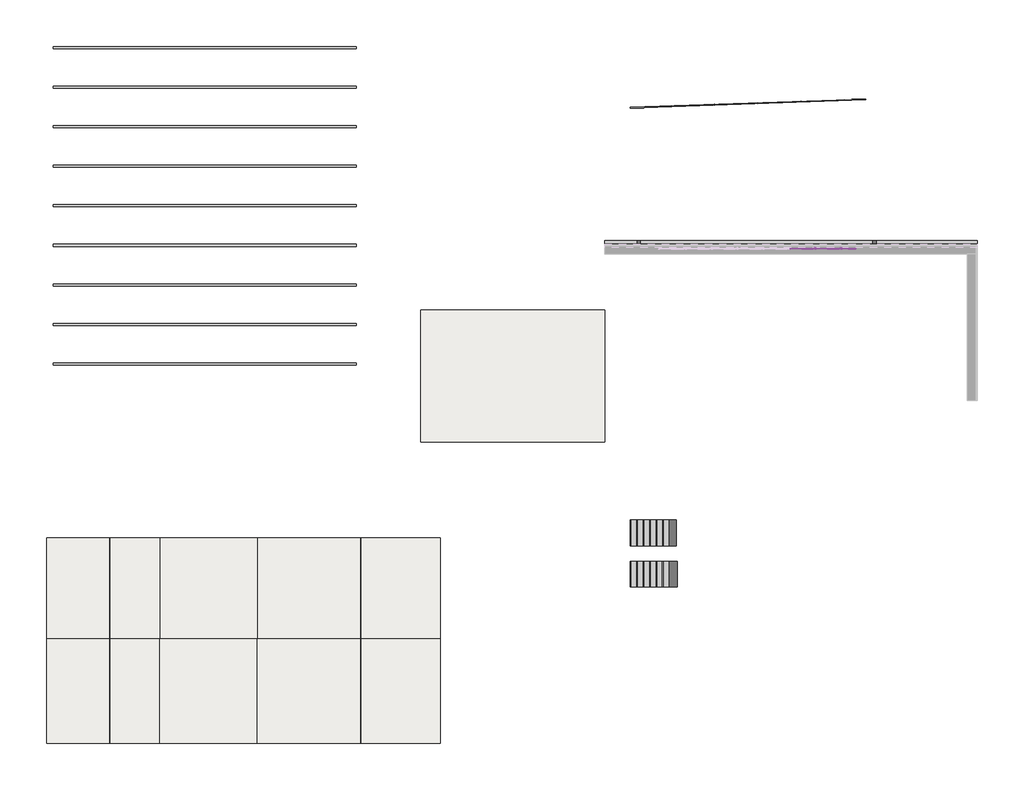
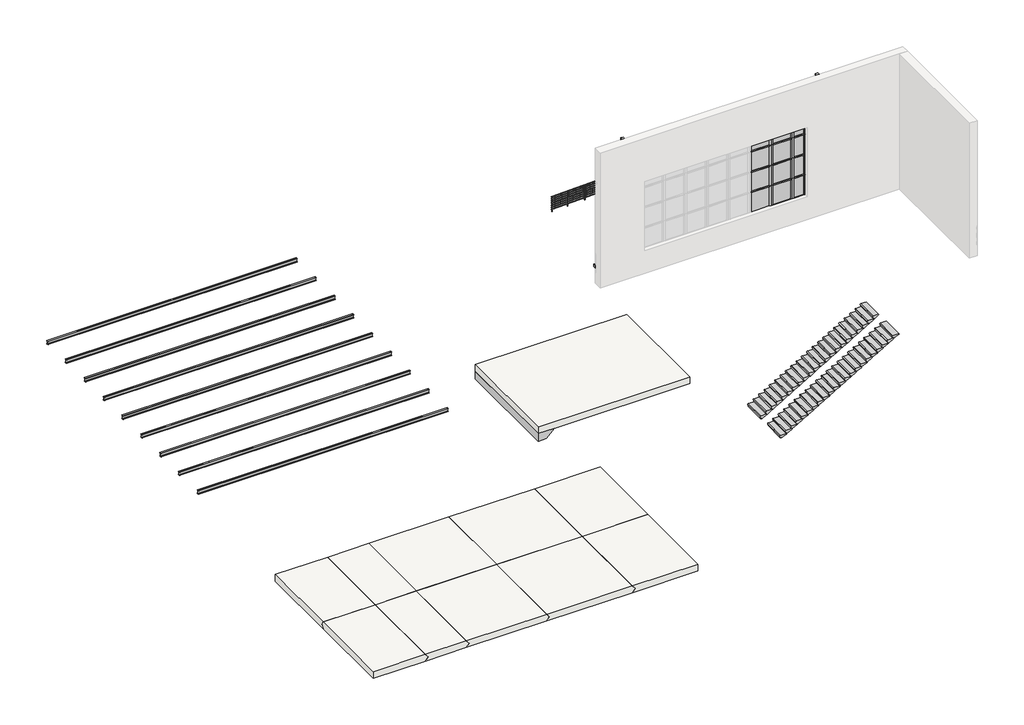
# One storey, part 2 of 2: 26 members, 12 plates, 9 beams, 4 proxies, 2 slabs, 2 stair flights, 1 railing.
"""IFC4 building model written with IfcOpenShell, lengths in millimetres."""

from ifc_helpers import new_model, si_unit, point, frame, frame_2d, origin, origin_with_axes, place, context, project, spatial, polyline, circle_curve, trimmed, segment, composite_curve, outline, extrude, faceted_brep, transform, mapped, element, save
from components import i_20b_96209b2f, member_019d2a25, member_3923b022, member_f6eef321, member_bfa8bbc5, member_4ce70233, member_5c61a606, member_90bb8290, member_481cded8, plate_97cba745, plate_2721f8ce, plate_4467079a, plate_749ee249, plate_6a8ce772, plate_be455ca1, stair_flight_9368ac00, stair_flight_5a34b58b

model = new_model("IFC4")

# Units and contexts
model_context = context("Model", 3, world=origin())
ifc_project = project(units=[si_unit("LENGTHUNIT", "METRE", prefix="MILLI")], contexts=[model_context])

# Site, building, storey
site = spatial("IfcSite", under=ifc_project)
building = spatial("IfcBuilding", under=site)
storey = spatial("IfcBuildingStorey", under=building, Name="Уровень 1", Elevation=0.0)

# Beams
placement = place(None, origin())
i_20b_shape = i_20b_96209b2f(model_context)
element("IfcBeam", 1, ObjectType="Двутавровая балка с параллельными гранями полок типа Б (ТУ 14-2-24-72) Балки : I 20B", at=placement, inside=storey, context=model_context, shape_type="MappedRepresentation", body=[
    mapped(i_20b_shape, transform((-40548.8124728, 17779.8601583, -97.0), x_axis=(1.0, 0.0, 0.0), y_axis=(0.0, 1.0, 0.0), z_axis=(0.0, 0.0, 1.0))),
])
element("IfcBeam", 2, ObjectType="Двутавровая балка с параллельными гранями полок типа Б (ТУ 14-2-24-72) Балки : I 20B", at=placement, inside=storey, context=model_context, shape_type="MappedRepresentation", body=[
    mapped(i_20b_shape, transform((-40548.8124728, 15951.0601583, -97.0), x_axis=(1.0, 0.0, 0.0), y_axis=(0.0, 1.0, 0.0), z_axis=(0.0, 0.0, 1.0))),
])
element("IfcBeam", 3, ObjectType="Двутавровая балка с параллельными гранями полок типа Б (ТУ 14-2-24-72) Балки : I 20B", at=placement, inside=storey, context=model_context, shape_type="MappedRepresentation", body=[
    mapped(i_20b_shape, transform((-40548.8124728, 14122.2601583, -97.0), x_axis=(1.0, 0.0, 0.0), y_axis=(0.0, 1.0, 0.0), z_axis=(0.0, 0.0, 1.0))),
])
element("IfcBeam", 4, ObjectType="Двутавровая балка с параллельными гранями полок типа Б (ТУ 14-2-24-72) Балки : I 20B", at=placement, inside=storey, context=model_context, shape_type="MappedRepresentation", body=[
    mapped(i_20b_shape, transform((-40548.8124728, 12293.4601583, -97.0), x_axis=(1.0, 0.0, 0.0), y_axis=(0.0, 1.0, 0.0), z_axis=(0.0, 0.0, 1.0))),
])
element("IfcBeam", 5, ObjectType="Двутавровая балка с параллельными гранями полок типа Б (ТУ 14-2-24-72) Балки : I 20B", at=placement, inside=storey, context=model_context, shape_type="MappedRepresentation", body=[
    mapped(i_20b_shape, transform((-40548.8124728, 10464.6601583, -97.0), x_axis=(1.0, 0.0, 0.0), y_axis=(0.0, 1.0, 0.0), z_axis=(0.0, 0.0, 1.0))),
])
element("IfcBeam", 6, ObjectType="Двутавровая балка с параллельными гранями полок типа Б (ТУ 14-2-24-72) Балки : I 20B", at=placement, inside=storey, context=model_context, shape_type="MappedRepresentation", body=[
    mapped(i_20b_shape, transform((-40548.8124728, 8635.8601583, -97.0), x_axis=(1.0, 0.0, 0.0), y_axis=(0.0, 1.0, 0.0), z_axis=(0.0, 0.0, 1.0))),
])
element("IfcBeam", 7, ObjectType="Двутавровая балка с параллельными гранями полок типа Б (ТУ 14-2-24-72) Балки : I 20B", at=placement, inside=storey, context=model_context, shape_type="MappedRepresentation", body=[
    mapped(i_20b_shape, transform((-40548.8124728, 6807.0601583, -97.0), x_axis=(1.0, 0.0, 0.0), y_axis=(0.0, 1.0, 0.0), z_axis=(0.0, 0.0, 1.0))),
])
element("IfcBeam", 8, ObjectType="Двутавровая балка с параллельными гранями полок типа Б (ТУ 14-2-24-72) Балки : I 20B", at=placement, inside=storey, context=model_context, shape_type="MappedRepresentation", body=[
    mapped(i_20b_shape, transform((-40548.8124728, 4978.2601583, -97.0), x_axis=(1.0, 0.0, 0.0), y_axis=(0.0, 1.0, 0.0), z_axis=(0.0, 0.0, 1.0))),
])
element("IfcBeam", 9, ObjectType="Двутавровая балка с параллельными гранями полок типа Б (ТУ 14-2-24-72) Балки : I 20B", at=placement, inside=storey, context=model_context, shape_type="MappedRepresentation", body=[
    mapped(i_20b_shape, transform((-40548.8124728, 3149.4601583, -97.0), x_axis=(1.0, 0.0, 0.0), y_axis=(0.0, 1.0, 0.0), z_axis=(0.0, 0.0, 1.0))),
])

# Proxies
element("IfcBuildingElementProxy", 10, Name="Карниз", ObjectType="Карниз", at=placement, inside=storey, context=model_context, shape_type="SweptSolid", body=[
    extrude(outline(polyline([(-22062.5352251, 8694.6601583), (-22062.5352251, 8847.0601583), (-4832.5352251, 8847.0601583), (-4832.5352251, 8694.6601583), (-22062.5352251, 8694.6601583)])), frame((0.0, 0.0, 900.0), z_axis=(0.0, 0.0, 1.0), x_axis=(1.0, 0.0, 0.0)), (0.0, 0.0, 1.0), 152.4),
])
element("IfcBuildingElementProxy", 11, Name="Карниз", ObjectType="Карниз", at=placement, inside=storey, context=model_context, shape_type="SweptSolid", body=[
    extrude(outline(polyline([(-9662.5352251, 8694.6601583), (-9662.5352251, 8847.0601583), (-9510.1352251, 8847.0601583), (-9510.1352251, 8694.6601583), (-9662.5352251, 8694.6601583)])), origin_with_axes(), (0.0, 0.0, 1.0), 8000.0),
])
element("IfcBuildingElementProxy", 12, Name="Карниз", ObjectType="Карниз", at=placement, inside=storey, context=model_context, shape_type="SweptSolid", body=[
    extrude(outline(polyline([(-20562.5352251, 8694.6601583), (-20562.5352251, 8847.0601583), (-20410.1352251, 8847.0601583), (-20410.1352251, 8694.6601583), (-20562.5352251, 8694.6601583)])), origin_with_axes(), (0.0, 0.0, 1.0), 8000.0),
])
element("IfcBuildingElementProxy", 13, Name="Кромка плиты", ObjectType="Кромка плиты", at=placement, inside=storey, context=model_context, shape_type="SweptSolid", body=[
    extrude(outline(polyline([(-850.0, -30562.5352251), (-850.0, -30112.5352251), (-400.0, -29662.5352251), (-400.0, -30562.5352251), (-850.0, -30562.5352251)])), frame((0.0, -449.6439188, 0.0), z_axis=(0.0, 1.0, 0.0), x_axis=(0.0, 0.0, 1.0)), (0.0, 0.0, 1.0), 6100.0),
])

# Members
member_shape = member_019d2a25(model_context)
element("IfcMember", 14, ObjectType="Прямоугольный импост : 50 мм x 65 мм", at=placement, inside=storey, context=model_context, shape_type="MappedRepresentation", body=[
    mapped(member_shape, transform((-10462.5352251, 8464.6601583, 1341.6457957), x_axis=(1.0, 0.0, 0.0), y_axis=(0.0, -1.0, 0.0), z_axis=(0.0, 0.0, -1.0))),
])
element("IfcMember", 15, ObjectType="Прямоугольный импост : 50 мм x 65 мм", at=placement, inside=storey, context=model_context, shape_type="MappedRepresentation", body=[
    mapped(member_shape, transform((-10462.5352251, 8464.6601583, 2541.6457957), x_axis=(1.0, 0.0, 0.0), y_axis=(0.0, -1.0, 0.0), z_axis=(0.0, 0.0, -1.0))),
])
element("IfcMember", 16, ObjectType="Прямоугольный импост : 50 мм x 65 мм", at=placement, inside=storey, context=model_context, shape_type="MappedRepresentation", body=[
    mapped(member_shape, transform((-10462.5352251, 8464.6601583, 3741.6457957), x_axis=(1.0, 0.0, 0.0), y_axis=(0.0, -1.0, 0.0), z_axis=(0.0, 0.0, -1.0))),
])
member_2_shape = member_3923b022(model_context)
element("IfcMember", 17, ObjectType="Прямоугольный импост : 50 мм x 65 мм", at=placement, inside=storey, context=model_context, shape_type="MappedRepresentation", body=[
    mapped(member_2_shape, transform((-10462.5352251, 8464.6601583, 4941.6457957), x_axis=(1.0, 0.0, 0.0), y_axis=(0.0, -1.0, 0.0), z_axis=(0.0, 0.0, -1.0))),
])
member_3_shape = member_f6eef321(model_context)
element("IfcMember", 18, ObjectType="Импост круглого сечения : Радиус 25 мм 2", at=placement, inside=storey, context=model_context, shape_type="MappedRepresentation", body=[
    mapped(member_3_shape, transform((-12362.5352248, 8464.6601583, 1341.6457957), x_axis=(1.0, 0.0, 0.0), y_axis=(0.0, -1.0, 0.0), z_axis=(0.0, 0.0, -1.0))),
])
element("IfcMember", 19, ObjectType="Импост круглого сечения : Радиус 25 мм 2", at=placement, inside=storey, context=model_context, shape_type="MappedRepresentation", body=[
    mapped(member_3_shape, transform((-11162.5352248, 8464.6601583, 1341.6457957), x_axis=(1.0, 0.0, 0.0), y_axis=(0.0, -1.0, 0.0), z_axis=(0.0, 0.0, -1.0))),
])
element("IfcMember", 20, ObjectType="Импост круглого сечения : Радиус 25 мм 2", at=placement, inside=storey, context=model_context, shape_type="MappedRepresentation", body=[
    mapped(member_3_shape, transform((-12362.5352248, 8464.6601583, 2541.6457957), x_axis=(1.0, 0.0, 0.0), y_axis=(0.0, -1.0, 0.0), z_axis=(0.0, 0.0, -1.0))),
])
element("IfcMember", 21, ObjectType="Импост круглого сечения : Радиус 25 мм 2", at=placement, inside=storey, context=model_context, shape_type="MappedRepresentation", body=[
    mapped(member_3_shape, transform((-11162.5352248, 8464.6601583, 2541.6457957), x_axis=(1.0, 0.0, 0.0), y_axis=(0.0, -1.0, 0.0), z_axis=(0.0, 0.0, -1.0))),
])
element("IfcMember", 22, ObjectType="Импост круглого сечения : Радиус 25 мм 2", at=placement, inside=storey, context=model_context, shape_type="MappedRepresentation", body=[
    mapped(member_3_shape, transform((-12362.5352248, 8464.6601583, 3741.6457957), x_axis=(1.0, 0.0, 0.0), y_axis=(0.0, -1.0, 0.0), z_axis=(0.0, 0.0, -1.0))),
])
element("IfcMember", 23, ObjectType="Импост круглого сечения : Радиус 25 мм 2", at=placement, inside=storey, context=model_context, shape_type="MappedRepresentation", body=[
    mapped(member_3_shape, transform((-11162.5352248, 8464.6601583, 3741.6457957), x_axis=(1.0, 0.0, 0.0), y_axis=(0.0, -1.0, 0.0), z_axis=(0.0, 0.0, -1.0))),
])
member_4_shape = member_bfa8bbc5(model_context)
element("IfcMember", 24, ObjectType="Импост круглого сечения : Радиус 25 мм 2", at=placement, inside=storey, context=model_context, shape_type="MappedRepresentation", body=[
    mapped(member_4_shape, transform((-12362.5352248, 8464.6601583, 4941.6457957), x_axis=(1.0, 0.0, 0.0), y_axis=(0.0, -1.0, 0.0), z_axis=(0.0, 0.0, -1.0))),
])
element("IfcMember", 25, ObjectType="Импост круглого сечения : Радиус 25 мм 2", at=placement, inside=storey, context=model_context, shape_type="MappedRepresentation", body=[
    mapped(member_4_shape, transform((-11162.5352248, 8464.6601583, 4941.6457957), x_axis=(1.0, 0.0, 0.0), y_axis=(0.0, -1.0, 0.0), z_axis=(0.0, 0.0, -1.0))),
])
member_5_shape = member_4ce70233(model_context)
element("IfcMember", 26, ObjectType="Импост круглого сечения : Радиус 25 мм", at=placement, inside=storey, context=model_context, shape_type="MappedRepresentation", body=[
    mapped(member_5_shape, transform((-10512.5352251, 8464.6601583, 5429.8819034), x_axis=(0.0, 0.0, 1.0), y_axis=(0.0, -1.0, 0.0), z_axis=(1.0, 0.0, 0.0))),
])
member_6_shape = member_5c61a606(model_context)
element("IfcMember", 27, ObjectType="Импост круглого сечения : Радиус 25 мм", at=placement, inside=storey, context=model_context, shape_type="MappedRepresentation", body=[
    mapped(member_6_shape, transform((-12449.8835041, 8464.6601583, 5429.8819034), x_axis=(0.0, 0.0, 1.0), y_axis=(0.0, -1.0, 0.0), z_axis=(1.0, 0.0, 0.0))),
])
element("IfcMember", 28, ObjectType="Импост круглого сечения : Радиус 25 мм", at=placement, inside=storey, context=model_context, shape_type="MappedRepresentation", body=[
    mapped(member_6_shape, transform((-11249.8835041, 8464.6601583, 5429.8819034), x_axis=(0.0, 0.0, 1.0), y_axis=(0.0, -1.0, 0.0), z_axis=(1.0, 0.0, 0.0))),
])
element("IfcMember", 29, ObjectType="Импост круглого сечения : Радиус 25 мм", at=placement, inside=storey, context=model_context, shape_type="MappedRepresentation", body=[
    mapped(member_6_shape, transform((-12275.1869455, 8464.6601583, 1341.6457957), x_axis=(0.0, 0.0, -1.0), y_axis=(0.0, -1.0, 0.0), z_axis=(-1.0, 0.0, 0.0))),
])
element("IfcMember", 30, ObjectType="Импост круглого сечения : Радиус 25 мм", at=placement, inside=storey, context=model_context, shape_type="MappedRepresentation", body=[
    mapped(member_5_shape, transform((-11075.1869455, 8464.6601583, 1341.6457957), x_axis=(0.0, 0.0, -1.0), y_axis=(0.0, -1.0, 0.0), z_axis=(-1.0, 0.0, 0.0))),
])
member_7_shape = member_90bb8290(model_context)
element("IfcMember", 31, ObjectType="Прямоугольный импост : 50 мм x 65 мм", at=placement, inside=storey, context=model_context, shape_type="MappedRepresentation", body=[
    mapped(member_7_shape, transform((-12449.8835041, 8464.6601583, 2541.6457957), x_axis=(0.0, 0.0, 1.0), y_axis=(0.0, -1.0, 0.0), z_axis=(1.0, 0.0, 0.0))),
])
element("IfcMember", 32, ObjectType="Прямоугольный импост : 50 мм x 65 мм", at=placement, inside=storey, context=model_context, shape_type="MappedRepresentation", body=[
    mapped(member_7_shape, transform((-11249.8835041, 8464.6601583, 2541.6457957), x_axis=(0.0, 0.0, 1.0), y_axis=(0.0, -1.0, 0.0), z_axis=(1.0, 0.0, 0.0))),
])
element("IfcMember", 33, ObjectType="Прямоугольный импост : 50 мм x 65 мм", at=placement, inside=storey, context=model_context, shape_type="MappedRepresentation", body=[
    mapped(member_7_shape, transform((-12449.8835041, 8464.6601583, 3741.6457957), x_axis=(0.0, 0.0, 1.0), y_axis=(0.0, -1.0, 0.0), z_axis=(1.0, 0.0, 0.0))),
])
element("IfcMember", 34, ObjectType="Прямоугольный импост : 50 мм x 65 мм", at=placement, inside=storey, context=model_context, shape_type="MappedRepresentation", body=[
    mapped(member_7_shape, transform((-11249.8835041, 8464.6601583, 3741.6457957), x_axis=(0.0, 0.0, 1.0), y_axis=(0.0, -1.0, 0.0), z_axis=(1.0, 0.0, 0.0))),
])
element("IfcMember", 35, ObjectType="Прямоугольный импост : 50 мм x 65 мм", at=placement, inside=storey, context=model_context, shape_type="MappedRepresentation", body=[
    mapped(member_7_shape, transform((-12449.8835041, 8464.6601583, 4941.6457957), x_axis=(0.0, 0.0, 1.0), y_axis=(0.0, -1.0, 0.0), z_axis=(1.0, 0.0, 0.0))),
])
element("IfcMember", 36, ObjectType="Прямоугольный импост : 50 мм x 65 мм", at=placement, inside=storey, context=model_context, shape_type="MappedRepresentation", body=[
    mapped(member_7_shape, transform((-11249.8835041, 8464.6601583, 4941.6457957), x_axis=(0.0, 0.0, 1.0), y_axis=(0.0, -1.0, 0.0), z_axis=(1.0, 0.0, 0.0))),
])
member_8_shape = member_481cded8(model_context)
element("IfcMember", 37, ObjectType="Прямоугольный импост : 50 мм x 65 мм", at=placement, inside=storey, context=model_context, shape_type="MappedRepresentation", body=[
    mapped(member_8_shape, transform((-10512.5352251, 8464.6601583, 2541.6457957), x_axis=(0.0, 0.0, 1.0), y_axis=(0.0, -1.0, 0.0), z_axis=(1.0, 0.0, 0.0))),
])
element("IfcMember", 38, ObjectType="Прямоугольный импост : 50 мм x 65 мм", at=placement, inside=storey, context=model_context, shape_type="MappedRepresentation", body=[
    mapped(member_8_shape, transform((-10512.5352251, 8464.6601583, 3741.6457957), x_axis=(0.0, 0.0, 1.0), y_axis=(0.0, -1.0, 0.0), z_axis=(1.0, 0.0, 0.0))),
])
element("IfcMember", 39, ObjectType="Прямоугольный импост : 50 мм x 65 мм", at=placement, inside=storey, context=model_context, shape_type="MappedRepresentation", body=[
    mapped(member_8_shape, transform((-10512.5352251, 8464.6601583, 4941.6457957), x_axis=(0.0, 0.0, 1.0), y_axis=(0.0, -1.0, 0.0), z_axis=(1.0, 0.0, 0.0))),
])

# Plates
plate_shape = plate_97cba745(model_context)
element("IfcPlate", 40, ObjectType="Системная панель : С остеклением", at=placement, inside=storey, context=model_context, shape_type="MappedRepresentation", body=[
    mapped(plate_shape, transform((-12962.5352248, 8464.6601583, 1341.6457957), x_axis=(1.0, 0.0, 0.0), y_axis=(0.0, 1.0, 0.0), z_axis=(0.0, 0.0, 1.0))),
])
element("IfcPlate", 41, ObjectType="Системная панель : С остеклением", at=placement, inside=storey, context=model_context, shape_type="MappedRepresentation", body=[
    mapped(plate_shape, transform((-11762.5352248, 8464.6601583, 1341.6457957), x_axis=(1.0, 0.0, 0.0), y_axis=(0.0, 1.0, 0.0), z_axis=(0.0, 0.0, 1.0))),
])
plate_2_shape = plate_2721f8ce(model_context)
element("IfcPlate", 42, ObjectType="Системная панель : С остеклением", at=placement, inside=storey, context=model_context, shape_type="MappedRepresentation", body=[
    mapped(plate_2_shape, transform((-10793.8610853, 8464.6601583, 1341.6457957), x_axis=(1.0, 0.0, 0.0), y_axis=(0.0, 1.0, 0.0), z_axis=(0.0, 0.0, 1.0))),
])
plate_3_shape = plate_4467079a(model_context)
element("IfcPlate", 43, ObjectType="Системная панель : С остеклением", at=placement, inside=storey, context=model_context, shape_type="MappedRepresentation", body=[
    mapped(plate_3_shape, transform((-12962.5352248, 8464.6601583, 2566.6457957), x_axis=(1.0, 0.0, 0.0), y_axis=(0.0, 1.0, 0.0), z_axis=(0.0, 0.0, 1.0))),
])
element("IfcPlate", 44, ObjectType="Системная панель : С остеклением", at=placement, inside=storey, context=model_context, shape_type="MappedRepresentation", body=[
    mapped(plate_3_shape, transform((-11762.5352248, 8464.6601583, 2566.6457957), x_axis=(1.0, 0.0, 0.0), y_axis=(0.0, 1.0, 0.0), z_axis=(0.0, 0.0, 1.0))),
])
element("IfcPlate", 45, ObjectType="Системная панель : С остеклением", at=placement, inside=storey, context=model_context, shape_type="MappedRepresentation", body=[
    mapped(plate_3_shape, transform((-12962.5352248, 8464.6601583, 3766.6457957), x_axis=(1.0, 0.0, 0.0), y_axis=(0.0, 1.0, 0.0), z_axis=(0.0, 0.0, 1.0))),
])
element("IfcPlate", 46, ObjectType="Системная панель : С остеклением", at=placement, inside=storey, context=model_context, shape_type="MappedRepresentation", body=[
    mapped(plate_3_shape, transform((-11762.5352248, 8464.6601583, 3766.6457957), x_axis=(1.0, 0.0, 0.0), y_axis=(0.0, 1.0, 0.0), z_axis=(0.0, 0.0, 1.0))),
])
plate_4_shape = plate_749ee249(model_context)
element("IfcPlate", 47, ObjectType="Системная панель : С остеклением", at=placement, inside=storey, context=model_context, shape_type="MappedRepresentation", body=[
    mapped(plate_4_shape, transform((-10793.8610853, 8464.6601583, 2566.6457957), x_axis=(1.0, 0.0, 0.0), y_axis=(0.0, 1.0, 0.0), z_axis=(0.0, 0.0, 1.0))),
])
element("IfcPlate", 48, ObjectType="Системная панель : С остеклением", at=placement, inside=storey, context=model_context, shape_type="MappedRepresentation", body=[
    mapped(plate_4_shape, transform((-10793.8610853, 8464.6601583, 3766.6457957), x_axis=(1.0, 0.0, 0.0), y_axis=(0.0, 1.0, 0.0), z_axis=(0.0, 0.0, 1.0))),
])
plate_5_shape = plate_6a8ce772(model_context)
element("IfcPlate", 49, ObjectType="Системная панель : С остеклением", at=placement, inside=storey, context=model_context, shape_type="MappedRepresentation", body=[
    mapped(plate_5_shape, transform((-12962.5352248, 8464.6601583, 4966.6457957), x_axis=(1.0, 0.0, 0.0), y_axis=(0.0, 1.0, 0.0), z_axis=(0.0, 0.0, 1.0))),
])
element("IfcPlate", 50, ObjectType="Системная панель : С остеклением", at=placement, inside=storey, context=model_context, shape_type="MappedRepresentation", body=[
    mapped(plate_5_shape, transform((-11762.5352248, 8464.6601583, 4966.6457957), x_axis=(1.0, 0.0, 0.0), y_axis=(0.0, 1.0, 0.0), z_axis=(0.0, 0.0, 1.0))),
])
plate_6_shape = plate_be455ca1(model_context)
element("IfcPlate", 51, ObjectType="Системная панель : С остеклением", at=placement, inside=storey, context=model_context, shape_type="MappedRepresentation", body=[
    mapped(plate_6_shape, transform((-10793.8610853, 8464.6601583, 4966.6457957), x_axis=(1.0, 0.0, 0.0), y_axis=(0.0, 1.0, 0.0), z_axis=(0.0, 0.0, 1.0))),
])

# Railing
element("IfcRailing", 52, ObjectType="Труба 900 мм", at=placement, inside=storey, context=model_context, shape_type="SweptSolid", body=[
    extrude(outline(composite_curve([segment(trimmed(circle_curve(frame_2d((0.0, 20.0)), 20.0), [point((-20.0, 20.0))], [point((20.0000001, 20.0))], False, "CARTESIAN"), True, "CONTINUOUS"), segment(trimmed(circle_curve(frame_2d((0.0, 20.0)), 20.0), [point((20.0000001, 20.0))], [point((-20.0, 20.0))], False, "CARTESIAN"), True, "CONTINUOUS")], self_intersect=False)), frame((-20882.1790658, 15003.6066223, 900.0), z_axis=(0.9993908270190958, 0.034899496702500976, 0.0), x_axis=(0.034899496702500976, -0.9993908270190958, 0.0)), (0.0, 0.0, 1.0), 10900.0),
    extrude(outline(composite_curve([segment(trimmed(circle_curve(frame_2d((0.0, 15.0)), 15.0), [point((15.0, 15.0))], [point((-15.0, 15.0))], False, "CARTESIAN"), True, "CONTINUOUS"), segment(trimmed(circle_curve(frame_2d((0.0, 15.0)), 15.0), [point((-15.0, 15.0))], [point((15.0, 15.0))], False, "CARTESIAN"), True, "CONTINUOUS")], self_intersect=False)), frame((-20882.1790658, 15003.6066223, 775.0), z_axis=(0.9993908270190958, 0.034899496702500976, 0.0), x_axis=(0.034899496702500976, -0.9993908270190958, 0.0)), (0.0, 0.0, 1.0), 10900.0),
    extrude(outline(composite_curve([segment(trimmed(circle_curve(frame_2d((0.0, 15.0)), 15.0), [point((15.0, 15.0))], [point((-15.0, 15.0))], False, "CARTESIAN"), True, "CONTINUOUS"), segment(trimmed(circle_curve(frame_2d((0.0, 15.0)), 15.0), [point((-15.0, 15.0))], [point((15.0, 15.0))], False, "CARTESIAN"), True, "CONTINUOUS")], self_intersect=False)), frame((-20882.1790658, 15003.6066223, 650.0), z_axis=(0.9993908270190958, 0.034899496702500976, 0.0), x_axis=(0.034899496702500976, -0.9993908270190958, 0.0)), (0.0, 0.0, 1.0), 10900.0),
    extrude(outline(composite_curve([segment(trimmed(circle_curve(frame_2d((0.0, 15.0)), 15.0), [point((15.0, 15.0))], [point((-15.0, 15.0))], False, "CARTESIAN"), True, "CONTINUOUS"), segment(trimmed(circle_curve(frame_2d((0.0, 15.0)), 15.0), [point((-15.0, 15.0))], [point((15.0, 15.0))], False, "CARTESIAN"), True, "CONTINUOUS")], self_intersect=False)), frame((-20882.1790658, 15003.6066223, 525.0), z_axis=(0.9993908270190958, 0.034899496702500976, 0.0), x_axis=(0.034899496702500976, -0.9993908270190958, 0.0)), (0.0, 0.0, 1.0), 10900.0),
    extrude(outline(composite_curve([segment(trimmed(circle_curve(frame_2d((0.0, 15.0)), 15.0), [point((15.0, 15.0))], [point((-15.0, 15.0))], False, "CARTESIAN"), True, "CONTINUOUS"), segment(trimmed(circle_curve(frame_2d((0.0, 15.0)), 15.0), [point((-15.0, 15.0))], [point((15.0, 15.0))], False, "CARTESIAN"), True, "CONTINUOUS")], self_intersect=False)), frame((-20882.1790658, 15003.6066223, 400.0), z_axis=(0.9993908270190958, 0.034899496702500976, 0.0), x_axis=(0.034899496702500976, -0.9993908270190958, 0.0)), (0.0, 0.0, 1.0), 10900.0),
    extrude(outline(composite_curve([segment(trimmed(circle_curve(frame_2d((0.0, 15.0)), 15.0), [point((15.0, 15.0))], [point((-15.0, 15.0))], False, "CARTESIAN"), True, "CONTINUOUS"), segment(trimmed(circle_curve(frame_2d((0.0, 15.0)), 15.0), [point((-15.0, 15.0))], [point((15.0, 15.0))], False, "CARTESIAN"), True, "CONTINUOUS")], self_intersect=False)), frame((-20882.1790658, 15003.6066223, 275.0), z_axis=(0.9993908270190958, 0.034899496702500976, 0.0), x_axis=(0.034899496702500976, -0.9993908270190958, 0.0)), (0.0, 0.0, 1.0), 10900.0),
    extrude(outline(composite_curve([segment(trimmed(circle_curve(frame_2d((0.0, 15.0)), 15.0), [point((15.0, 15.0))], [point((-15.0, 15.0))], False, "CARTESIAN"), True, "CONTINUOUS"), segment(trimmed(circle_curve(frame_2d((0.0, 15.0)), 15.0), [point((-15.0, 15.0))], [point((15.0, 15.0))], False, "CARTESIAN"), True, "CONTINUOUS")], self_intersect=False)), frame((-20882.1790658, 15003.6066223, 150.0), z_axis=(0.9993908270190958, 0.034899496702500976, 0.0), x_axis=(0.034899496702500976, -0.9993908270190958, 0.0)), (0.0, 0.0, 1.0), 10900.0),
    extrude(outline(composite_curve([segment(trimmed(circle_curve(frame_2d((-19982.7273215, 15035.0161693)), 12.5), [point((-19982.2910778, 15022.523784))], [point((-19983.1635652, 15047.5085546))], False, "CARTESIAN"), True, "CONTINUOUS"), segment(trimmed(circle_curve(frame_2d((-19982.7273215, 15035.0161693)), 12.5), [point((-19983.1635652, 15047.5085546))], [point((-19982.2910778, 15022.523784))], False, "CARTESIAN"), True, "CONTINUOUS")], self_intersect=False)), origin_with_axes(), (0.0, 0.0, 1.0), 860.0),
    extrude(outline(composite_curve([segment(trimmed(circle_curve(frame_2d((-18983.3364944, 15069.915666)), 12.5), [point((-18982.9002507, 15057.4232807))], [point((-18983.7727382, 15082.4080513))], False, "CARTESIAN"), True, "CONTINUOUS"), segment(trimmed(circle_curve(frame_2d((-18983.3364944, 15069.915666)), 12.5), [point((-18983.7727382, 15082.4080513))], [point((-18982.9002507, 15057.4232807))], False, "CARTESIAN"), True, "CONTINUOUS")], self_intersect=False)), origin_with_axes(), (0.0, 0.0, 1.0), 860.0),
    extrude(outline(composite_curve([segment(trimmed(circle_curve(frame_2d((-17983.9456674, 15104.8151627)), 12.5), [point((-17983.5094237, 15092.3227774))], [point((-17984.3819111, 15117.3075481))], False, "CARTESIAN"), True, "CONTINUOUS"), segment(trimmed(circle_curve(frame_2d((-17983.9456674, 15104.8151627)), 12.5), [point((-17984.3819111, 15117.3075481))], [point((-17983.5094237, 15092.3227774))], False, "CARTESIAN"), True, "CONTINUOUS")], self_intersect=False)), origin_with_axes(), (0.0, 0.0, 1.0), 860.0),
    extrude(outline(composite_curve([segment(trimmed(circle_curve(frame_2d((-16984.5548404, 15139.7146594)), 12.5), [point((-16984.1185967, 15127.2222741))], [point((-16984.9910841, 15152.2070448))], False, "CARTESIAN"), True, "CONTINUOUS"), segment(trimmed(circle_curve(frame_2d((-16984.5548404, 15139.7146594)), 12.5), [point((-16984.9910841, 15152.2070448))], [point((-16984.1185967, 15127.2222741))], False, "CARTESIAN"), True, "CONTINUOUS")], self_intersect=False)), origin_with_axes(), (0.0, 0.0, 1.0), 860.0),
    extrude(outline(composite_curve([segment(trimmed(circle_curve(frame_2d((-15985.1640134, 15174.6141561)), 12.5), [point((-15984.7277697, 15162.1217708))], [point((-15985.6002571, 15187.1065415))], False, "CARTESIAN"), True, "CONTINUOUS"), segment(trimmed(circle_curve(frame_2d((-15985.1640134, 15174.6141561)), 12.5), [point((-15985.6002571, 15187.1065415))], [point((-15984.7277697, 15162.1217708))], False, "CARTESIAN"), True, "CONTINUOUS")], self_intersect=False)), origin_with_axes(), (0.0, 0.0, 1.0), 860.0),
    extrude(outline(composite_curve([segment(trimmed(circle_curve(frame_2d((-14985.7731864, 15209.5136528)), 12.5), [point((-14985.3369427, 15197.0212675))], [point((-14986.2094301, 15222.0060382))], False, "CARTESIAN"), True, "CONTINUOUS"), segment(trimmed(circle_curve(frame_2d((-14985.7731864, 15209.5136528)), 12.5), [point((-14986.2094301, 15222.0060382))], [point((-14985.3369427, 15197.0212675))], False, "CARTESIAN"), True, "CONTINUOUS")], self_intersect=False)), origin_with_axes(), (0.0, 0.0, 1.0), 860.0),
    extrude(outline(composite_curve([segment(trimmed(circle_curve(frame_2d((-13986.3823593, 15244.4131495)), 12.5), [point((-13985.9461156, 15231.9207642))], [point((-13986.8186031, 15256.9055349))], False, "CARTESIAN"), True, "CONTINUOUS"), segment(trimmed(circle_curve(frame_2d((-13986.3823593, 15244.4131495)), 12.5), [point((-13986.8186031, 15256.9055349))], [point((-13985.9461156, 15231.9207642))], False, "CARTESIAN"), True, "CONTINUOUS")], self_intersect=False)), origin_with_axes(), (0.0, 0.0, 1.0), 860.0),
    extrude(outline(composite_curve([segment(trimmed(circle_curve(frame_2d((-12986.9915323, 15279.3126462)), 12.5), [point((-12986.5552886, 15266.8202609))], [point((-12987.427776, 15291.8050316))], False, "CARTESIAN"), True, "CONTINUOUS"), segment(trimmed(circle_curve(frame_2d((-12986.9915323, 15279.3126462)), 12.5), [point((-12987.427776, 15291.8050316))], [point((-12986.5552886, 15266.8202609))], False, "CARTESIAN"), True, "CONTINUOUS")], self_intersect=False)), origin_with_axes(), (0.0, 0.0, 1.0), 860.0),
    extrude(outline(composite_curve([segment(trimmed(circle_curve(frame_2d((-11987.6007053, 15314.2121429)), 12.5), [point((-11987.1644616, 15301.7197576))], [point((-11988.036949, 15326.7045283))], False, "CARTESIAN"), True, "CONTINUOUS"), segment(trimmed(circle_curve(frame_2d((-11987.6007053, 15314.2121429)), 12.5), [point((-11988.036949, 15326.7045283))], [point((-11987.1644616, 15301.7197576))], False, "CARTESIAN"), True, "CONTINUOUS")], self_intersect=False)), origin_with_axes(), (0.0, 0.0, 1.0), 860.0),
    extrude(outline(composite_curve([segment(trimmed(circle_curve(frame_2d((-10988.2098783, 15349.1116396)), 12.5), [point((-10987.7736346, 15336.6192543))], [point((-10988.646122, 15361.604025))], False, "CARTESIAN"), True, "CONTINUOUS"), segment(trimmed(circle_curve(frame_2d((-10988.2098783, 15349.1116396)), 12.5), [point((-10988.646122, 15361.604025))], [point((-10987.7736346, 15336.6192543))], False, "CARTESIAN"), True, "CONTINUOUS")], self_intersect=False)), origin_with_axes(), (0.0, 0.0, 1.0), 860.0),
    extrude(outline(composite_curve([segment(trimmed(circle_curve(frame_2d((-20869.6866804, 15004.042866)), 12.5), [point((-20869.2504367, 14991.5504806))], [point((-20870.1229241, 15016.5352513))], False, "CARTESIAN"), True, "CONTINUOUS"), segment(trimmed(circle_curve(frame_2d((-20869.6866804, 15004.042866)), 12.5), [point((-20870.1229241, 15016.5352513))], [point((-20869.2504367, 14991.5504806))], False, "CARTESIAN"), True, "CONTINUOUS")], self_intersect=False)), origin_with_axes(), (0.0, 0.0, 1.0), 860.0),
    extrude(outline(composite_curve([segment(trimmed(circle_curve(frame_2d((-10001.3114366, 15383.5748926)), 12.5), [point((-10000.8751929, 15371.0825073))], [point((-10001.7476803, 15396.067278))], False, "CARTESIAN"), True, "CONTINUOUS"), segment(trimmed(circle_curve(frame_2d((-10001.3114366, 15383.5748926)), 12.5), [point((-10001.7476803, 15396.067278))], [point((-10000.8751929, 15371.0825073))], False, "CARTESIAN"), True, "CONTINUOUS")], self_intersect=False)), origin_with_axes(), (0.0, 0.0, 1.0), 860.0),
])

# Slabs
element("IfcSlab", 53, ObjectType="Типовой пол - 400мм", at=placement, inside=storey, context=model_context, shape_type="Brep", body=[
    faceted_brep([(-30562.5352251, -449.6439188, -400.0), (-30562.5352251, 5650.3560812, -400.0), (-29662.5352251, 5650.3560812, -400.0), (-22062.5352251, 5650.3560812, -400.0), (-22062.5352251, -449.6439188, -400.0), (-29662.5352251, -449.6439188, -400.0), (-30562.5352251, -449.6439188, 0.0), (-22062.5352251, -449.6439188, 0.0), (-22062.5352251, 5650.3560812, 0.0), (-30562.5352251, 5650.3560812, 0.0)], [[[0, 1, 2, 3, 4, 5]], [[6, 7, 8, 9]], [[1, 0, 6, 9]], [[3, 2, 1, 9, 8]], [[4, 3, 8, 7]], [[0, 5, 4, 7, 6]]]),
])
element("IfcSlab", 54, ObjectType="Типовой пол - 400мм", at=placement, inside=storey, context=model_context, shape_type="Brep", body=[
    faceted_brep([(-33320.2648212, -4892.7513201, -400.0), (-29648.5960511, -4892.7513201, -400.0), (-29648.5960511, -9535.3398417, -400.0), (-33320.2648212, -9535.3398417, -400.0), (-29648.5960511, -4892.7513201, 0.0), (-33320.2648212, -4892.7513201, 0.0), (-33320.2648212, -9535.3398417, 0.0), (-29648.5960511, -9535.3398417, 0.0), (-33172.0087244, -4892.7513201, -200.0), (-29648.5960511, -9387.0837448, -200.0), (-33172.0087244, -9387.0837448, -200.0)], [[[0, 1, 2, 3]], [[4, 5, 6, 7]], [[4, 1, 0, 8, 5]], [[1, 4, 7, 9, 2]], [[5, 8, 10, 6]], [[8, 0, 3, 10]], [[10, 9, 7, 6]], [[9, 10, 3, 2]]]),
    faceted_brep([(-47848.5960511, -4892.7513201, -400.0), (-44920.2648212, -4892.7513201, -400.0), (-44920.2648212, -9535.3398417, -400.0), (-47848.5960511, -9535.3398417, -400.0), (-47848.5960511, -4892.7513201, 0.0), (-44920.2648212, -4892.7513201, 0.0), (-44772.0087244, -4892.7513201, -200.0), (-47848.5960511, -9535.3398417, 0.0), (-44920.2648212, -9535.3398417, 0.0), (-47848.5960511, -9387.0837448, -200.0), (-44772.0087244, -9387.0837448, -200.0)], [[[0, 1, 2, 3]], [[0, 4, 5, 6, 1]], [[5, 4, 7, 8]], [[4, 0, 3, 9, 7]], [[1, 6, 10, 2]], [[6, 5, 8, 10]], [[9, 10, 8, 7]], [[10, 9, 3, 2]]]),
    faceted_brep([(-44920.2648212, -4892.7513201, -400.0), (-42620.2648212, -4892.7513201, -400.0), (-42620.2648212, -9535.3398417, -400.0), (-44920.2648212, -9535.3398417, -400.0), (-44772.0087244, -4892.7513201, -200.0), (-44920.2648212, -4892.7513201, 0.0), (-42620.2648212, -4892.7513201, 0.0), (-42472.0087244, -4892.7513201, -200.0), (-44920.2648212, -9535.3398417, 0.0), (-42620.2648212, -9535.3398417, 0.0), (-44772.0087244, -9387.0837448, -200.0), (-42472.0087244, -9387.0837448, -200.0)], [[[0, 1, 2, 3]], [[0, 4, 5, 6, 7, 1]], [[6, 5, 8, 9]], [[5, 4, 10, 8]], [[4, 0, 3, 10]], [[1, 7, 11, 2]], [[7, 6, 9, 11]], [[10, 11, 9, 8]], [[11, 10, 3, 2]]]),
    faceted_brep([(-42620.2648212, -4892.7513201, -400.0), (-38120.2648212, -4892.7513201, -400.0), (-38120.2648212, -9535.3398417, -400.0), (-42620.2648212, -9535.3398417, -400.0), (-42472.0087244, -4892.7513201, -200.0), (-42620.2648212, -4892.7513201, 0.0), (-38120.2648212, -4892.7513201, 0.0), (-37972.0087244, -4892.7513201, -200.0), (-42620.2648212, -9535.3398417, 0.0), (-38120.2648212, -9535.3398417, 0.0), (-42472.0087244, -9387.0837448, -200.0), (-37972.0087244, -9387.0837448, -200.0)], [[[0, 1, 2, 3]], [[0, 4, 5, 6, 7, 1]], [[6, 5, 8, 9]], [[5, 4, 10, 8]], [[4, 0, 3, 10]], [[1, 7, 11, 2]], [[7, 6, 9, 11]], [[10, 11, 9, 8]], [[11, 10, 3, 2]]]),
    faceted_brep([(-38120.2648212, -4892.7513201, -400.0), (-33320.2648212, -4892.7513201, -400.0), (-33320.2648212, -9535.3398417, -400.0), (-38120.2648212, -9535.3398417, -400.0), (-37972.0087244, -4892.7513201, -200.0), (-38120.2648212, -4892.7513201, 0.0), (-33320.2648212, -4892.7513201, 0.0), (-33172.0087244, -4892.7513201, -200.0), (-38120.2648212, -9535.3398417, 0.0), (-33320.2648212, -9535.3398417, 0.0), (-37972.0087244, -9387.0837448, -200.0), (-33172.0087244, -9387.0837448, -200.0)], [[[0, 1, 2, 3]], [[0, 4, 5, 6, 7, 1]], [[6, 5, 8, 9]], [[5, 4, 10, 8]], [[4, 0, 3, 10]], [[1, 7, 11, 2]], [[7, 6, 9, 11]], [[10, 11, 9, 8]], [[11, 10, 3, 2]]]),
    faceted_brep([(-33320.2648212, -14392.7513201, -400.0), (-38120.2648212, -14392.7513201, -400.0), (-38120.2648212, -9535.3398417, -400.0), (-33320.2648212, -9535.3398417, -400.0), (-38120.2648212, -14392.7513201, 0.0), (-33320.2648212, -14392.7513201, 0.0), (-33320.2648212, -9535.3398417, 0.0), (-38120.2648212, -9535.3398417, 0.0), (-33172.0087244, -14392.7513201, -200.0), (-37972.0087244, -14392.7513201, -200.0), (-37972.0087244, -9387.0837448, -200.0), (-33172.0087244, -9387.0837448, -200.0)], [[[0, 1, 2, 3]], [[4, 5, 6, 7]], [[1, 0, 8, 5, 4, 9]], [[9, 4, 7, 10]], [[1, 9, 10, 2]], [[8, 0, 3, 11]], [[5, 8, 11, 6]], [[10, 11, 3, 2]], [[11, 10, 7, 6]]]),
    faceted_brep([(-38120.2648212, -14392.7513201, -400.0), (-42620.2648212, -14392.7513201, -400.0), (-42620.2648212, -9535.3398417, -400.0), (-38120.2648212, -9535.3398417, -400.0), (-42620.2648212, -14392.7513201, 0.0), (-38120.2648212, -14392.7513201, 0.0), (-38120.2648212, -9535.3398417, 0.0), (-42620.2648212, -9535.3398417, 0.0), (-37972.0087244, -14392.7513201, -200.0), (-42472.0087244, -14392.7513201, -200.0), (-42472.0087244, -9387.0837448, -200.0), (-37972.0087244, -9387.0837448, -200.0)], [[[0, 1, 2, 3]], [[4, 5, 6, 7]], [[1, 0, 8, 5, 4, 9]], [[9, 4, 7, 10]], [[1, 9, 10, 2]], [[8, 0, 3, 11]], [[5, 8, 11, 6]], [[10, 11, 3, 2]], [[11, 10, 7, 6]]]),
    faceted_brep([(-42620.2648212, -14392.7513201, -400.0), (-44920.2648212, -14392.7513201, -400.0), (-44920.2648212, -9535.3398417, -400.0), (-42620.2648212, -9535.3398417, -400.0), (-44920.2648212, -14392.7513201, 0.0), (-42620.2648212, -14392.7513201, 0.0), (-42620.2648212, -9535.3398417, 0.0), (-44920.2648212, -9535.3398417, 0.0), (-42472.0087244, -14392.7513201, -200.0), (-44772.0087244, -14392.7513201, -200.0), (-44772.0087244, -9387.0837448, -200.0), (-42472.0087244, -9387.0837448, -200.0)], [[[0, 1, 2, 3]], [[4, 5, 6, 7]], [[1, 0, 8, 5, 4, 9]], [[9, 4, 7, 10]], [[1, 9, 10, 2]], [[8, 0, 3, 11]], [[5, 8, 11, 6]], [[10, 11, 3, 2]], [[11, 10, 7, 6]]]),
    faceted_brep([(-44920.2648212, -14392.7513201, -400.0), (-47848.5960511, -14392.7513201, -400.0), (-47848.5960511, -9535.3398417, -400.0), (-44920.2648212, -9535.3398417, -400.0), (-47848.5960511, -14392.7513201, 0.0), (-44920.2648212, -14392.7513201, 0.0), (-44920.2648212, -9535.3398417, 0.0), (-47848.5960511, -9535.3398417, 0.0), (-44772.0087244, -14392.7513201, -200.0), (-47848.5960511, -9387.0837448, -200.0), (-44772.0087244, -9387.0837448, -200.0)], [[[0, 1, 2, 3]], [[4, 5, 6, 7]], [[1, 0, 8, 5, 4]], [[1, 4, 7, 9, 2]], [[8, 0, 3, 10]], [[5, 8, 10, 6]], [[9, 10, 3, 2]], [[10, 9, 7, 6]]]),
    faceted_brep([(-29648.5960511, -14392.7513201, -400.0), (-33320.2648212, -14392.7513201, -400.0), (-33320.2648212, -9535.3398417, -400.0), (-29648.5960511, -9535.3398417, -400.0), (-29648.5960511, -14392.7513201, 0.0), (-33320.2648212, -14392.7513201, 0.0), (-33172.0087244, -14392.7513201, -200.0), (-29648.5960511, -9535.3398417, 0.0), (-33320.2648212, -9535.3398417, 0.0), (-29648.5960511, -9387.0837448, -200.0), (-33172.0087244, -9387.0837448, -200.0)], [[[0, 1, 2, 3]], [[1, 0, 4, 5, 6]], [[5, 4, 7, 8]], [[4, 0, 3, 9, 7]], [[6, 5, 8, 10]], [[1, 6, 10, 2]], [[10, 9, 3, 2]], [[9, 10, 8, 7]]]),
])

# Stair flights
stair_flight_shape = stair_flight_9368ac00(model_context)
element("IfcStairFlight", 55, ObjectType="АР_ГОСТ 8717.1-84_ЛС15", at=placement, inside=storey, context=model_context, shape_type="MappedRepresentation", body=[
    mapped(stair_flight_shape, transform((0.0, 0.0, 0.0), x_axis=(1.0, 0.0, 0.0), y_axis=(0.0, 1.0, 0.0), z_axis=(0.0, 0.0, 1.0))),
])
stair_flight_2_shape = stair_flight_5a34b58b(model_context)
element("IfcStairFlight", 56, ObjectType="АР_ГОСТ 8717.1-84_ЛС17", at=placement, inside=storey, context=model_context, shape_type="MappedRepresentation", body=[
    mapped(stair_flight_2_shape, transform((0.0, 0.0, 0.0), x_axis=(1.0, 0.0, 0.0), y_axis=(0.0, 1.0, 0.0), z_axis=(0.0, 0.0, 1.0))),
])

save(model, "model.ifc")
